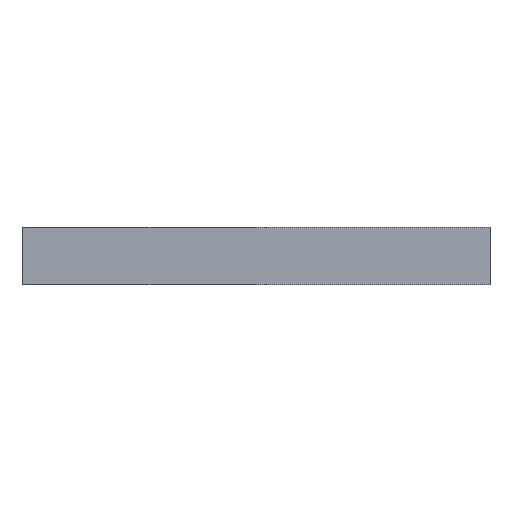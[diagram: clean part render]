
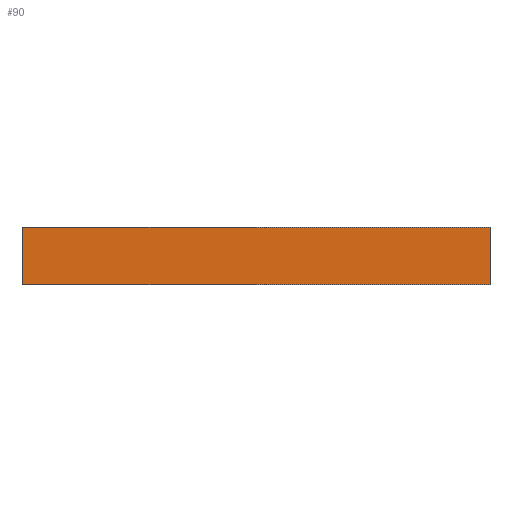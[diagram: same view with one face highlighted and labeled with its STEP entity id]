
A CAD part, front view. The second image highlights one B-rep face of the part: STEP entity #90.
In plain terms, the highlighted planar face has unit normal (0, -1, 0) as drawn and (0, 1, 0) by its records, which use the part's own axes.
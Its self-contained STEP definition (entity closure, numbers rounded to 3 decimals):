
#90=ADVANCED_FACE('',(#670),#9694,.T.);
#670=FACE_OUTER_BOUND('',#1250,.T.);
#1250=EDGE_LOOP('',(#1967,#1968,#1969,#1970));
#1967=ORIENTED_EDGE('',*,*,#5262,.F.);
#1968=ORIENTED_EDGE('',*,*,#5266,.T.);
#1969=ORIENTED_EDGE('',*,*,#5265,.T.);
#1970=ORIENTED_EDGE('',*,*,#5264,.T.);
#5262=EDGE_CURVE('',#8612,#8613,#7418,.T.);
#5264=EDGE_CURVE('',#8614,#8613,#7420,.T.);
#5265=EDGE_CURVE('',#8615,#8614,#7421,.T.);
#5266=EDGE_CURVE('',#8612,#8615,#7422,.T.);
#7418=B_SPLINE_CURVE_WITH_KNOTS('',1,(#11516,#11517),.UNSPECIFIED.,.F.,
 .F.,(2,2),(-48.,0.),.UNSPECIFIED.);
#7420=B_SPLINE_CURVE_WITH_KNOTS('',1,(#11520,#11521),.UNSPECIFIED.,.F.,
 .F.,(2,2),(-388.,0.),.UNSPECIFIED.);
#7421=B_SPLINE_CURVE_WITH_KNOTS('',1,(#11522,#11523),.UNSPECIFIED.,.F.,
 .F.,(2,2),(-48.,0.),.UNSPECIFIED.);
#7422=B_SPLINE_CURVE_WITH_KNOTS('',1,(#11524,#11525),.UNSPECIFIED.,.F.,
 .F.,(2,2),(0.,388.),.UNSPECIFIED.);
#8612=VERTEX_POINT('',#11254);
#8613=VERTEX_POINT('',#11255);
#8614=VERTEX_POINT('',#11256);
#8615=VERTEX_POINT('',#11257);
#9694=PLANE('',#10347);
#10347=AXIS2_PLACEMENT_3D('',#11194,#10660,$);
#10660=DIRECTION('',(0.,1.,0.));
#11194=CARTESIAN_POINT('',(-235.335,0.,-31.335));
#11254=CARTESIAN_POINT('',(194.,0.,-24.));
#11255=CARTESIAN_POINT('',(194.,0.,24.));
#11256=CARTESIAN_POINT('',(-194.,0.,24.));
#11257=CARTESIAN_POINT('',(-194.,0.,-24.));
#11516=CARTESIAN_POINT('',(194.,0.,-24.));
#11517=CARTESIAN_POINT('',(194.,0.,24.));
#11520=CARTESIAN_POINT('',(-194.,0.,24.));
#11521=CARTESIAN_POINT('',(194.,0.,24.));
#11522=CARTESIAN_POINT('',(-194.,0.,-24.));
#11523=CARTESIAN_POINT('',(-194.,0.,24.));
#11524=CARTESIAN_POINT('',(194.,0.,-24.));
#11525=CARTESIAN_POINT('',(-194.,0.,-24.));
